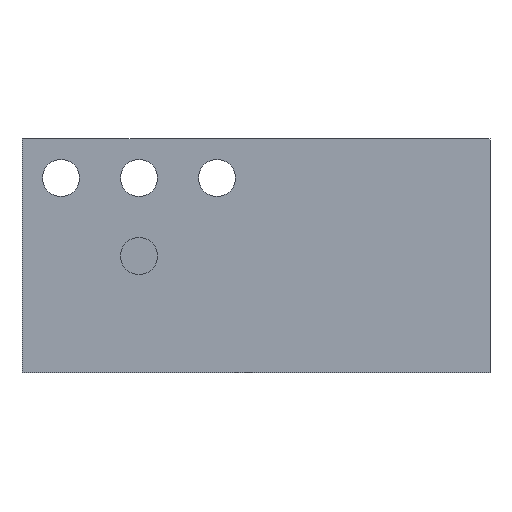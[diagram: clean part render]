
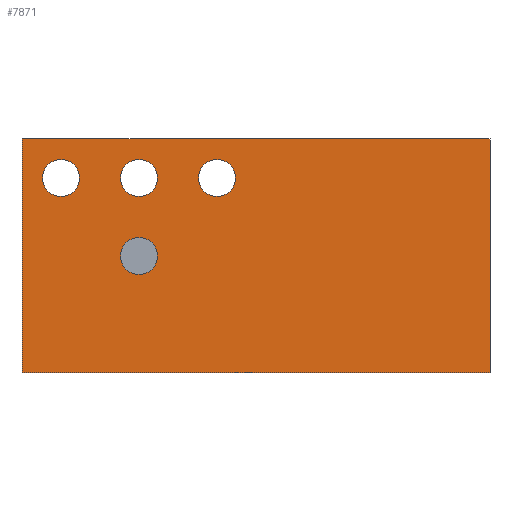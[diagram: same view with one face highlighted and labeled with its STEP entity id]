
A CAD part, front view. The second image highlights one B-rep face of the part: STEP entity #7871.
In plain terms, the highlighted planar face has unit normal (0, -1, 0).
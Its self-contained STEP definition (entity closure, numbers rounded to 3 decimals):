
#24=FACE_BOUND('',#1103,.T.);
#25=FACE_BOUND('',#1104,.T.);
#26=FACE_BOUND('',#1105,.T.);
#27=FACE_BOUND('',#1106,.T.);
#311=PLANE('',#8491);
#702=FACE_OUTER_BOUND('',#1102,.T.);
#1102=EDGE_LOOP('',(#7366,#7367,#7368,#7369));
#1103=EDGE_LOOP('',(#7370));
#1104=EDGE_LOOP('',(#7371));
#1105=EDGE_LOOP('',(#7372));
#1106=EDGE_LOOP('',(#7373));
#1888=LINE('',#12580,#2817);
#2031=LINE('',#12923,#2960);
#2033=LINE('',#12927,#2962);
#2035=LINE('',#12930,#2964);
#2817=VECTOR('',#10253,10.);
#2960=VECTOR('',#10622,10.);
#2962=VECTOR('',#10626,10.);
#2964=VECTOR('',#10630,10.);
#3071=CIRCLE('',#8063,2.375);
#3073=CIRCLE('',#8067,2.375);
#3075=CIRCLE('',#8070,2.375);
#3077=CIRCLE('',#8073,2.375);
#3439=VERTEX_POINT('',#11291);
#3441=VERTEX_POINT('',#11298);
#3443=VERTEX_POINT('',#11304);
#3445=VERTEX_POINT('',#11310);
#3852=VERTEX_POINT('',#12577);
#3853=VERTEX_POINT('',#12579);
#3940=VERTEX_POINT('',#12922);
#3941=VERTEX_POINT('',#12926);
#4268=EDGE_CURVE('',#3439,#3439,#3071,.T.);
#4271=EDGE_CURVE('',#3441,#3441,#3073,.T.);
#4274=EDGE_CURVE('',#3443,#3443,#3075,.T.);
#4277=EDGE_CURVE('',#3445,#3445,#3077,.T.);
#4912=EDGE_CURVE('',#3853,#3852,#1888,.T.);
#5081=EDGE_CURVE('',#3940,#3853,#2031,.T.);
#5083=EDGE_CURVE('',#3941,#3940,#2033,.T.);
#5085=EDGE_CURVE('',#3852,#3941,#2035,.T.);
#7366=ORIENTED_EDGE('',*,*,#5085,.T.);
#7367=ORIENTED_EDGE('',*,*,#5083,.T.);
#7368=ORIENTED_EDGE('',*,*,#5081,.T.);
#7369=ORIENTED_EDGE('',*,*,#4912,.T.);
#7370=ORIENTED_EDGE('',*,*,#4268,.T.);
#7371=ORIENTED_EDGE('',*,*,#4271,.T.);
#7372=ORIENTED_EDGE('',*,*,#4274,.T.);
#7373=ORIENTED_EDGE('',*,*,#4277,.T.);
#7871=ADVANCED_FACE('',(#702,#24,#25,#26,#27),#311,.T.);
#8063=AXIS2_PLACEMENT_3D('',#11293,#9068,#9069);
#8067=AXIS2_PLACEMENT_3D('',#11300,#9077,#9078);
#8070=AXIS2_PLACEMENT_3D('',#11306,#9084,#9085);
#8073=AXIS2_PLACEMENT_3D('',#11312,#9091,#9092);
#8491=AXIS2_PLACEMENT_3D('',#12932,#10633,#10634);
#9068=DIRECTION('center_axis',(0.,1.,0.));
#9069=DIRECTION('ref_axis',(-1.,0.,0.));
#9077=DIRECTION('center_axis',(0.,1.,0.));
#9078=DIRECTION('ref_axis',(-1.,0.,0.));
#9084=DIRECTION('center_axis',(0.,1.,0.));
#9085=DIRECTION('ref_axis',(-1.,0.,0.));
#9091=DIRECTION('center_axis',(0.,1.,0.));
#9092=DIRECTION('ref_axis',(-1.,0.,0.));
#10253=DIRECTION('',(-1.,0.,0.));
#10622=DIRECTION('',(0.,0.,1.));
#10626=DIRECTION('',(1.,0.,0.));
#10630=DIRECTION('',(0.,0.,-1.));
#10633=DIRECTION('center_axis',(0.,-1.,0.));
#10634=DIRECTION('ref_axis',(0.,0.,-1.));
#11291=CARTESIAN_POINT('',(17.375,-4.,-15.));
#11293=CARTESIAN_POINT('Origin',(15.,-4.,-15.));
#11298=CARTESIAN_POINT('',(17.375,-4.,-5.));
#11300=CARTESIAN_POINT('Origin',(15.,-4.,-5.));
#11304=CARTESIAN_POINT('',(7.375,-4.,-5.));
#11306=CARTESIAN_POINT('Origin',(5.,-4.,-5.));
#11310=CARTESIAN_POINT('',(27.375,-4.,-5.));
#11312=CARTESIAN_POINT('Origin',(25.,-4.,-5.));
#12577=CARTESIAN_POINT('',(0.,-4.,0.));
#12579=CARTESIAN_POINT('',(60.,-4.,0.));
#12580=CARTESIAN_POINT('',(0.,-4.,0.));
#12922=CARTESIAN_POINT('',(60.,-4.,-30.));
#12923=CARTESIAN_POINT('',(60.,-4.,0.));
#12926=CARTESIAN_POINT('',(0.,-4.,-30.));
#12927=CARTESIAN_POINT('',(60.,-4.,-30.));
#12930=CARTESIAN_POINT('',(0.,-4.,-30.));
#12932=CARTESIAN_POINT('Origin',(30.,-4.,-15.));
